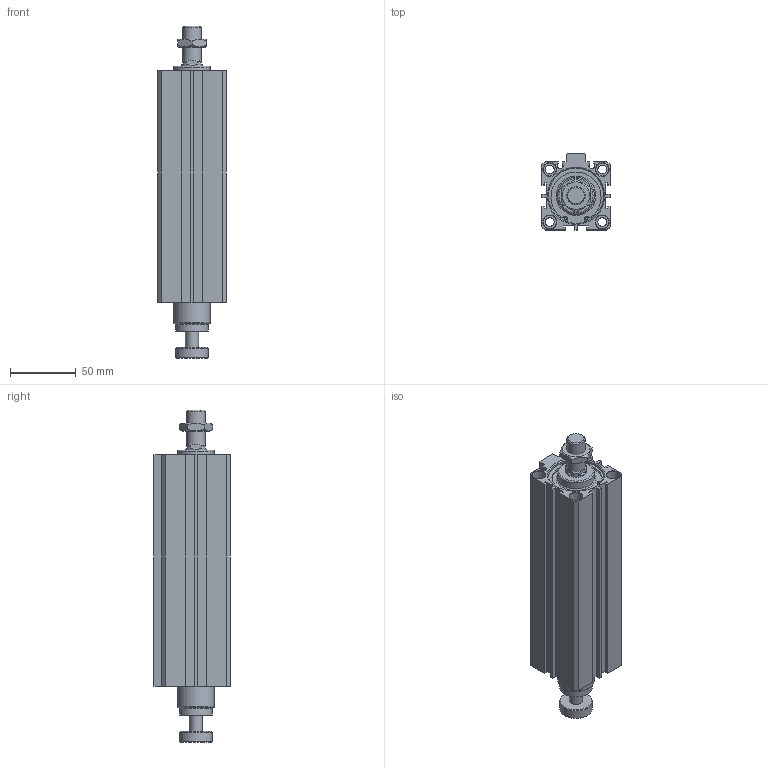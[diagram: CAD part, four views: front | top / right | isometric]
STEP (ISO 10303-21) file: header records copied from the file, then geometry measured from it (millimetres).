
FILE_DESCRIPTION((''),'2;1');
FILE_NAME('I:\3D電子目錄\氣缸\JDAR\JDAR-B\JDAR40-B\JDAR40x150-B.stp','2007-03-14T14:57:04',('662F206'),(''),'Autodesk Inventor 11','Autodesk Inventor 11','');
FILE_SCHEMA(('AUTOMOTIVE_DESIGN { 1 0 10303 214 1 1 1 1 }'));
Length unit declared in the file: millimetre
Products named in the file (3): JDAR40-B; R 形環 42
Assembly tree (3 placements, depth 2):
  JDAR40-B
    JDAR40-B
    R 形環 42  x2
Bounding box: 52 x 58 x 252.8 mm (x, y, z)
Volume: 447743.7 mm3; surface area: 83095.2 mm2
Topology: 3 solids, 3 shells, 179 faces, 418 edges, 271 vertices
Faces by surface type: plane 100, cylinder 50, cone 25, bspline 2, torus 2
Full cylindrical faces by diameter (mm): 1.9 x4, 2.2 x2, 6.8 x4, 10 x9, 14 x2, 16 x1, 25 x2, 28 x2, 42 x4, 44.5 x2
Entity records: 4585 total; most frequent: CARTESIAN_POINT 873, DIRECTION 770, ORIENTED_EDGE 654, EDGE_CURVE 327, AXIS2_PLACEMENT_3D 292, EDGE_LOOP 260, VERTEX_POINT 245, VECTOR 186
